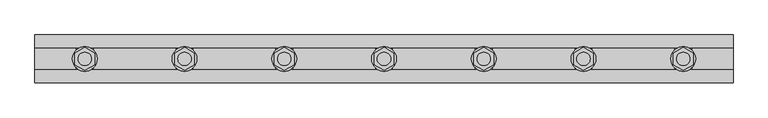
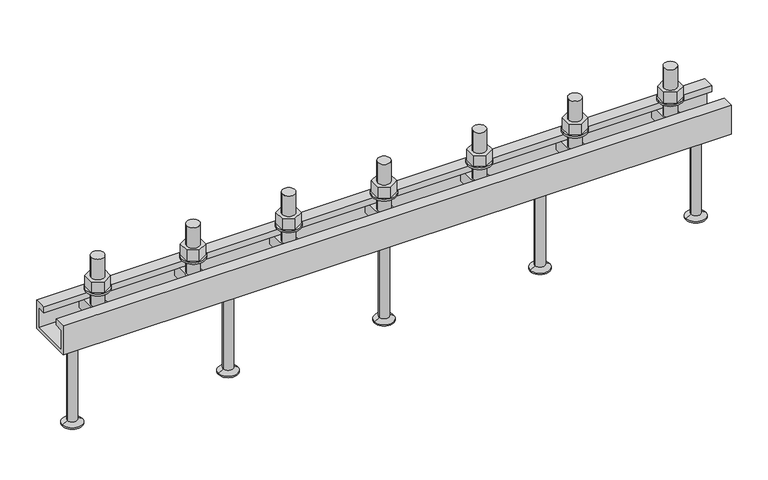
"""IFC4 building model written with IfcOpenShell, lengths in millimetres: fastener geometry, JTA-W JORDAHL® AnchorChannels : JTA-W L=1050 mm."""

from ifc_helpers import new_model, si_unit, point, frame, frame_2d, origin, place, context, project, spatial, polyline, circle_curve, trimmed, segment, composite_curve, outline, extrude, source, transform, mapped, element, save
from ifc_brep_helpers import plane_surface, cylinder_surface, revolved_surface, advanced_brep


def fastener_f3c19d08(model_context):
    return source(origin(), model_context, "Body", "SolidModel", [
        extrude(outline(polyline([(825.0, 17.3205081), (840.0, 8.660254), (840.0, -8.660254), (825.0, -17.3205081), (810.0, -8.660254), (810.0, 8.660254), (825.0, 17.3205081)]), holes=[composite_curve([segment(trimmed(circle_curve(frame_2d((825.0, 0.0)), 10.0), [point((815.0, 0.0))], [point((835.0, 0.0))], True, "CARTESIAN"), True, "CONTINUOUS"), segment(trimmed(circle_curve(frame_2d((825.0, 0.0)), 10.0), [point((835.0, 0.0))], [point((815.0, 0.0))], True, "CARTESIAN"), True, "CONTINUOUS")], self_intersect=False)]), frame((0.0, 0.0, 18.0), z_axis=(0.0, 0.0, 1.0), x_axis=(1.0, 0.0, 0.0)), (0.0, 0.0, 1.0), 18.0),
        extrude(outline(composite_curve([segment(trimmed(circle_curve(frame_2d((825.0, 0.0)), 18.5), [point((806.5, 0.0))], [point((843.5, 0.0))], False, "CARTESIAN"), True, "CONTINUOUS"), segment(trimmed(circle_curve(frame_2d((825.0, 0.0)), 18.5), [point((843.5, 0.0))], [point((806.5, 0.0))], False, "CARTESIAN"), True, "CONTINUOUS")], self_intersect=False), holes=[composite_curve([segment(trimmed(circle_curve(frame_2d((825.0, 0.0)), 10.5), [point((814.5, 0.0))], [point((835.5, 0.0))], True, "CARTESIAN"), True, "CONTINUOUS"), segment(trimmed(circle_curve(frame_2d((825.0, 0.0)), 10.5), [point((835.5, 0.0))], [point((814.5, 0.0))], True, "CARTESIAN"), True, "CONTINUOUS")], self_intersect=False)]), frame((0.0, 0.0, 15.0), z_axis=(0.0, 0.0, 1.0), x_axis=(1.0, 0.0, 0.0)), (0.0, 0.0, 1.0), 3.0),
        extrude(outline(polyline([(675.0, 17.3205081), (690.0, 8.660254), (690.0, -8.660254), (675.0, -17.3205081), (660.0, -8.660254), (660.0, 8.660254), (675.0, 17.3205081)]), holes=[composite_curve([segment(trimmed(circle_curve(frame_2d((675.0, 0.0)), 10.0), [point((665.0, 0.0))], [point((685.0, 0.0))], True, "CARTESIAN"), True, "CONTINUOUS"), segment(trimmed(circle_curve(frame_2d((675.0, 0.0)), 10.0), [point((685.0, 0.0))], [point((665.0, 0.0))], True, "CARTESIAN"), True, "CONTINUOUS")], self_intersect=False)]), frame((0.0, 0.0, 18.0), z_axis=(0.0, 0.0, 1.0), x_axis=(1.0, 0.0, 0.0)), (0.0, 0.0, 1.0), 18.0),
        extrude(outline(composite_curve([segment(trimmed(circle_curve(frame_2d((675.0, 0.0)), 18.5), [point((656.5, 0.0))], [point((693.5, 0.0))], False, "CARTESIAN"), True, "CONTINUOUS"), segment(trimmed(circle_curve(frame_2d((675.0, 0.0)), 18.5), [point((693.5, 0.0))], [point((656.5, 0.0))], False, "CARTESIAN"), True, "CONTINUOUS")], self_intersect=False), holes=[composite_curve([segment(trimmed(circle_curve(frame_2d((675.0, 0.0)), 10.5), [point((664.5, 0.0))], [point((685.5, 0.0))], True, "CARTESIAN"), True, "CONTINUOUS"), segment(trimmed(circle_curve(frame_2d((675.0, 0.0)), 10.5), [point((685.5, 0.0))], [point((664.5, 0.0))], True, "CARTESIAN"), True, "CONTINUOUS")], self_intersect=False)]), frame((0.0, 0.0, 15.0), z_axis=(0.0, 0.0, 1.0), x_axis=(1.0, 0.0, 0.0)), (0.0, 0.0, 1.0), 3.0),
        extrude(outline(polyline([(525.0, 17.3205081), (540.0, 8.660254), (540.0, -8.660254), (525.0, -17.3205081), (510.0, -8.660254), (510.0, 8.660254), (525.0, 17.3205081)]), holes=[composite_curve([segment(trimmed(circle_curve(frame_2d((525.0, 0.0)), 10.0), [point((515.0, 0.0))], [point((535.0, 0.0))], True, "CARTESIAN"), True, "CONTINUOUS"), segment(trimmed(circle_curve(frame_2d((525.0, 0.0)), 10.0), [point((535.0, 0.0))], [point((515.0, 0.0))], True, "CARTESIAN"), True, "CONTINUOUS")], self_intersect=False)]), frame((0.0, 0.0, 18.0), z_axis=(0.0, 0.0, 1.0), x_axis=(1.0, 0.0, 0.0)), (0.0, 0.0, 1.0), 18.0),
        extrude(outline(composite_curve([segment(trimmed(circle_curve(frame_2d((525.0, 0.0)), 18.5), [point((506.5, 0.0))], [point((543.5, 0.0))], False, "CARTESIAN"), True, "CONTINUOUS"), segment(trimmed(circle_curve(frame_2d((525.0, 0.0)), 18.5), [point((543.5, 0.0))], [point((506.5, 0.0))], False, "CARTESIAN"), True, "CONTINUOUS")], self_intersect=False), holes=[composite_curve([segment(trimmed(circle_curve(frame_2d((525.0, 0.0)), 10.5), [point((514.5, 0.0))], [point((535.5, 0.0))], True, "CARTESIAN"), True, "CONTINUOUS"), segment(trimmed(circle_curve(frame_2d((525.0, 0.0)), 10.5), [point((535.5, 0.0))], [point((514.5, 0.0))], True, "CARTESIAN"), True, "CONTINUOUS")], self_intersect=False)]), frame((0.0, 0.0, 15.0), z_axis=(0.0, 0.0, 1.0), x_axis=(1.0, 0.0, 0.0)), (0.0, 0.0, 1.0), 3.0),
        extrude(outline(polyline([(375.0, 17.3205081), (390.0, 8.660254), (390.0, -8.660254), (375.0, -17.3205081), (360.0, -8.660254), (360.0, 8.660254), (375.0, 17.3205081)]), holes=[composite_curve([segment(trimmed(circle_curve(frame_2d((375.0, 0.0)), 10.0), [point((365.0, 0.0))], [point((385.0, 0.0))], True, "CARTESIAN"), True, "CONTINUOUS"), segment(trimmed(circle_curve(frame_2d((375.0, 0.0)), 10.0), [point((385.0, 0.0))], [point((365.0, 0.0))], True, "CARTESIAN"), True, "CONTINUOUS")], self_intersect=False)]), frame((0.0, 0.0, 18.0), z_axis=(0.0, 0.0, 1.0), x_axis=(1.0, 0.0, 0.0)), (0.0, 0.0, 1.0), 18.0),
        extrude(outline(composite_curve([segment(trimmed(circle_curve(frame_2d((375.0, 0.0)), 18.5), [point((356.5, 0.0))], [point((393.5, 0.0))], False, "CARTESIAN"), True, "CONTINUOUS"), segment(trimmed(circle_curve(frame_2d((375.0, 0.0)), 18.5), [point((393.5, 0.0))], [point((356.5, 0.0))], False, "CARTESIAN"), True, "CONTINUOUS")], self_intersect=False), holes=[composite_curve([segment(trimmed(circle_curve(frame_2d((375.0, 0.0)), 10.5), [point((364.5, 0.0))], [point((385.5, 0.0))], True, "CARTESIAN"), True, "CONTINUOUS"), segment(trimmed(circle_curve(frame_2d((375.0, 0.0)), 10.5), [point((385.5, 0.0))], [point((364.5, 0.0))], True, "CARTESIAN"), True, "CONTINUOUS")], self_intersect=False)]), frame((0.0, 0.0, 15.0), z_axis=(0.0, 0.0, 1.0), x_axis=(1.0, 0.0, 0.0)), (0.0, 0.0, 1.0), 3.0),
        extrude(outline(polyline([(225.0, 17.3205081), (240.0, 8.660254), (240.0, -8.660254), (225.0, -17.3205081), (210.0, -8.660254), (210.0, 8.660254), (225.0, 17.3205081)]), holes=[composite_curve([segment(trimmed(circle_curve(frame_2d((225.0, 0.0)), 10.0), [point((215.0, 0.0))], [point((235.0, 0.0))], True, "CARTESIAN"), True, "CONTINUOUS"), segment(trimmed(circle_curve(frame_2d((225.0, 0.0)), 10.0), [point((235.0, 0.0))], [point((215.0, 0.0))], True, "CARTESIAN"), True, "CONTINUOUS")], self_intersect=False)]), frame((0.0, 0.0, 18.0), z_axis=(0.0, 0.0, 1.0), x_axis=(1.0, 0.0, 0.0)), (0.0, 0.0, 1.0), 18.0),
        extrude(outline(composite_curve([segment(trimmed(circle_curve(frame_2d((225.0, 0.0)), 18.5), [point((206.5, 0.0))], [point((243.5, 0.0))], False, "CARTESIAN"), True, "CONTINUOUS"), segment(trimmed(circle_curve(frame_2d((225.0, 0.0)), 18.5), [point((243.5, 0.0))], [point((206.5, 0.0))], False, "CARTESIAN"), True, "CONTINUOUS")], self_intersect=False), holes=[composite_curve([segment(trimmed(circle_curve(frame_2d((225.0, 0.0)), 10.5), [point((214.5, 0.0))], [point((235.5, 0.0))], True, "CARTESIAN"), True, "CONTINUOUS"), segment(trimmed(circle_curve(frame_2d((225.0, 0.0)), 10.5), [point((235.5, 0.0))], [point((214.5, 0.0))], True, "CARTESIAN"), True, "CONTINUOUS")], self_intersect=False)]), frame((0.0, 0.0, 15.0), z_axis=(0.0, 0.0, 1.0), x_axis=(1.0, 0.0, 0.0)), (0.0, 0.0, 1.0), 3.0),
        advanced_brep(
        [(837.5, 29.0, -10.0), (837.5, -29.0, -10.0), (837.5, -29.0, -30.0), (837.5, 29.0, -30.0), (812.5, 29.0, -10.0), (812.5, 29.0, -30.0), (812.5, -29.0, -30.0), (812.5, -29.0, -10.0), (835.0, 0.0, -10.0), (815.0, 0.0, -10.0), (815.0, 0.0, 70.0), (835.0, 0.0, 70.0)],
        [
            (0, 1),
            (1, 2),
            (2, 3),
            (3, 0),
            (4, 5),
            (5, 6),
            (6, 7),
            (7, 4),
            (0, 4),
            (7, 1),
            (8, 9, circle_curve(frame((825.0, 0.0, -10.0), z_axis=(0.0, 0.0, -1.0), x_axis=(1.0, 0.0, 0.0)), 10.0)),
            (9, 8, circle_curve(frame((825.0, 0.0, -10.0), z_axis=(0.0, 0.0, -1.0), x_axis=(1.0, 0.0, 0.0)), 10.0)),
            (6, 2),
            (5, 3),
            (10, 11, circle_curve(frame((825.0, 0.0, 70.0), z_axis=(0.0, 0.0, 1.0), x_axis=(1.0, 0.0, 0.0)), 10.0)),
            (11, 10, circle_curve(frame((825.0, 0.0, 70.0), z_axis=(0.0, 0.0, 1.0), x_axis=(1.0, 0.0, 0.0)), 10.0)),
            (10, 9),
            (8, 11),
        ],
        [
            plane_surface(frame((837.5, -29.0, -10.0), z_axis=(1.0, 0.0, 0.0), x_axis=(0.0, -1.0, 0.0))),
            plane_surface(frame((812.5, -29.0, -10.0), z_axis=(-1.0, 0.0, 0.0), x_axis=(0.0, 1.0, 0.0))),
            plane_surface(frame((837.5, 29.0, -10.0), z_axis=(0.0, 0.0, 1.0), x_axis=(-1.0, 0.0, 0.0))),
            plane_surface(frame((837.5, -29.0, -10.0), z_axis=(0.0, -1.0, 0.0), x_axis=(-1.0, 0.0, 0.0))),
            plane_surface(frame((837.5, -29.0, -30.0), z_axis=(0.0, 0.0, -1.0), x_axis=(-1.0, 0.0, 0.0))),
            plane_surface(frame((837.5, 29.0, -30.0), z_axis=(0.0, 1.0, 0.0), x_axis=(-1.0, 0.0, 0.0))),
            plane_surface(frame((835.0, 0.0, 70.0), z_axis=(0.0, 0.0, 1.0), x_axis=(0.0, 1.0, 0.0))),
            cylinder_surface(frame((825.0, 0.0, -10.0), z_axis=(0.0, 0.0, 1.0), x_axis=(1.0, 0.0, 0.0)), 10.0),
        ],
        [
            (0, [[1, 2, 3, 4]]),
            (1, [[5, 6, 7, 8]]),
            (2, [[-1, 9, -8, 10], [11, 12]]),
            (3, [[-2, -10, -7, 13]]),
            (4, [[-3, -13, -6, 14]]),
            (5, [[-4, -14, -5, -9]]),
            (6, [[15, 16]]),
            (7, [[-15, 17, -11, 18]]),
            (7, [[-16, -18, -12, -17]]),
        ],
    ),
        advanced_brep(
        [(687.5, 29.0, -10.0), (687.5, -29.0, -10.0), (687.5, -29.0, -30.0), (687.5, 29.0, -30.0), (662.5, 29.0, -10.0), (662.5, 29.0, -30.0), (662.5, -29.0, -30.0), (662.5, -29.0, -10.0), (685.0, 0.0, -10.0), (665.0, 0.0, -10.0), (665.0, 0.0, 70.0), (685.0, 0.0, 70.0)],
        [
            (0, 1),
            (1, 2),
            (2, 3),
            (3, 0),
            (4, 5),
            (5, 6),
            (6, 7),
            (7, 4),
            (0, 4),
            (7, 1),
            (8, 9, circle_curve(frame((675.0, 0.0, -10.0), z_axis=(0.0, 0.0, -1.0), x_axis=(1.0, 0.0, 0.0)), 10.0)),
            (9, 8, circle_curve(frame((675.0, 0.0, -10.0), z_axis=(0.0, 0.0, -1.0), x_axis=(1.0, 0.0, 0.0)), 10.0)),
            (6, 2),
            (5, 3),
            (10, 11, circle_curve(frame((675.0, 0.0, 70.0), z_axis=(0.0, 0.0, 1.0), x_axis=(1.0, 0.0, 0.0)), 10.0)),
            (11, 10, circle_curve(frame((675.0, 0.0, 70.0), z_axis=(0.0, 0.0, 1.0), x_axis=(1.0, 0.0, 0.0)), 10.0)),
            (10, 9),
            (8, 11),
        ],
        [
            plane_surface(frame((687.5, -29.0, -10.0), z_axis=(1.0, 0.0, 0.0), x_axis=(0.0, -1.0, 0.0))),
            plane_surface(frame((662.5, -29.0, -10.0), z_axis=(-1.0, 0.0, 0.0), x_axis=(0.0, 1.0, 0.0))),
            plane_surface(frame((687.5, 29.0, -10.0), z_axis=(0.0, 0.0, 1.0), x_axis=(-1.0, 0.0, 0.0))),
            plane_surface(frame((687.5, -29.0, -10.0), z_axis=(0.0, -1.0, 0.0), x_axis=(-1.0, 0.0, 0.0))),
            plane_surface(frame((687.5, -29.0, -30.0), z_axis=(0.0, 0.0, -1.0), x_axis=(-1.0, 0.0, 0.0))),
            plane_surface(frame((687.5, 29.0, -30.0), z_axis=(0.0, 1.0, 0.0), x_axis=(-1.0, 0.0, 0.0))),
            plane_surface(frame((685.0, 0.0, 70.0), z_axis=(0.0, 0.0, 1.0), x_axis=(0.0, 1.0, 0.0))),
            cylinder_surface(frame((675.0, 0.0, -10.0), z_axis=(0.0, 0.0, 1.0), x_axis=(1.0, 0.0, 0.0)), 10.0),
        ],
        [
            (0, [[1, 2, 3, 4]]),
            (1, [[5, 6, 7, 8]]),
            (2, [[-1, 9, -8, 10], [11, 12]]),
            (3, [[-2, -10, -7, 13]]),
            (4, [[-3, -13, -6, 14]]),
            (5, [[-4, -14, -5, -9]]),
            (6, [[15, 16]]),
            (7, [[-15, 17, -11, 18]]),
            (7, [[-16, -18, -12, -17]]),
        ],
    ),
        advanced_brep(
        [(537.5, 29.0, -10.0), (537.5, -29.0, -10.0), (537.5, -29.0, -30.0), (537.5, 29.0, -30.0), (512.5, 29.0, -10.0), (512.5, 29.0, -30.0), (512.5, -29.0, -30.0), (512.5, -29.0, -10.0), (535.0, 0.0, -10.0), (515.0, 0.0, -10.0), (515.0, 0.0, 70.0), (535.0, 0.0, 70.0)],
        [
            (0, 1),
            (1, 2),
            (2, 3),
            (3, 0),
            (4, 5),
            (5, 6),
            (6, 7),
            (7, 4),
            (0, 4),
            (7, 1),
            (8, 9, circle_curve(frame((525.0, 0.0, -10.0), z_axis=(0.0, 0.0, -1.0), x_axis=(1.0, 0.0, 0.0)), 10.0)),
            (9, 8, circle_curve(frame((525.0, 0.0, -10.0), z_axis=(0.0, 0.0, -1.0), x_axis=(1.0, 0.0, 0.0)), 10.0)),
            (6, 2),
            (5, 3),
            (10, 11, circle_curve(frame((525.0, 0.0, 70.0), z_axis=(0.0, 0.0, 1.0), x_axis=(1.0, 0.0, 0.0)), 10.0)),
            (11, 10, circle_curve(frame((525.0, 0.0, 70.0), z_axis=(0.0, 0.0, 1.0), x_axis=(1.0, 0.0, 0.0)), 10.0)),
            (10, 9),
            (8, 11),
        ],
        [
            plane_surface(frame((537.5, -29.0, -10.0), z_axis=(1.0, 0.0, 0.0), x_axis=(0.0, -1.0, 0.0))),
            plane_surface(frame((512.5, -29.0, -10.0), z_axis=(-1.0, 0.0, 0.0), x_axis=(0.0, 1.0, 0.0))),
            plane_surface(frame((537.5, 29.0, -10.0), z_axis=(0.0, 0.0, 1.0), x_axis=(-1.0, 0.0, 0.0))),
            plane_surface(frame((537.5, -29.0, -10.0), z_axis=(0.0, -1.0, 0.0), x_axis=(-1.0, 0.0, 0.0))),
            plane_surface(frame((537.5, -29.0, -30.0), z_axis=(0.0, 0.0, -1.0), x_axis=(-1.0, 0.0, 0.0))),
            plane_surface(frame((537.5, 29.0, -30.0), z_axis=(0.0, 1.0, 0.0), x_axis=(-1.0, 0.0, 0.0))),
            plane_surface(frame((535.0, 0.0, 70.0), z_axis=(0.0, 0.0, 1.0), x_axis=(0.0, 1.0, 0.0))),
            cylinder_surface(frame((525.0, 0.0, -10.0), z_axis=(0.0, 0.0, 1.0), x_axis=(1.0, 0.0, 0.0)), 10.0),
        ],
        [
            (0, [[1, 2, 3, 4]]),
            (1, [[5, 6, 7, 8]]),
            (2, [[-1, 9, -8, 10], [11, 12]]),
            (3, [[-2, -10, -7, 13]]),
            (4, [[-3, -13, -6, 14]]),
            (5, [[-4, -14, -5, -9]]),
            (6, [[15, 16]]),
            (7, [[-15, 17, -11, 18]]),
            (7, [[-16, -18, -12, -17]]),
        ],
    ),
        advanced_brep(
        [(387.5, 29.0, -10.0), (387.5, -29.0, -10.0), (387.5, -29.0, -30.0), (387.5, 29.0, -30.0), (362.5, 29.0, -10.0), (362.5, 29.0, -30.0), (362.5, -29.0, -30.0), (362.5, -29.0, -10.0), (385.0, 0.0, -10.0), (365.0, 0.0, -10.0), (365.0, 0.0, 70.0), (385.0, 0.0, 70.0)],
        [
            (0, 1),
            (1, 2),
            (2, 3),
            (3, 0),
            (4, 5),
            (5, 6),
            (6, 7),
            (7, 4),
            (0, 4),
            (7, 1),
            (8, 9, circle_curve(frame((375.0, 0.0, -10.0), z_axis=(0.0, 0.0, -1.0), x_axis=(1.0, 0.0, 0.0)), 10.0)),
            (9, 8, circle_curve(frame((375.0, 0.0, -10.0), z_axis=(0.0, 0.0, -1.0), x_axis=(1.0, 0.0, 0.0)), 10.0)),
            (6, 2),
            (5, 3),
            (10, 11, circle_curve(frame((375.0, 0.0, 70.0), z_axis=(0.0, 0.0, 1.0), x_axis=(1.0, 0.0, 0.0)), 10.0)),
            (11, 10, circle_curve(frame((375.0, 0.0, 70.0), z_axis=(0.0, 0.0, 1.0), x_axis=(1.0, 0.0, 0.0)), 10.0)),
            (10, 9),
            (8, 11),
        ],
        [
            plane_surface(frame((387.5, -29.0, -10.0), z_axis=(1.0, 0.0, 0.0), x_axis=(0.0, -1.0, 0.0))),
            plane_surface(frame((362.5, -29.0, -10.0), z_axis=(-1.0, 0.0, 0.0), x_axis=(0.0, 1.0, 0.0))),
            plane_surface(frame((387.5, 29.0, -10.0), z_axis=(0.0, 0.0, 1.0), x_axis=(-1.0, 0.0, 0.0))),
            plane_surface(frame((387.5, -29.0, -10.0), z_axis=(0.0, -1.0, 0.0), x_axis=(-1.0, 0.0, 0.0))),
            plane_surface(frame((387.5, -29.0, -30.0), z_axis=(0.0, 0.0, -1.0), x_axis=(-1.0, 0.0, 0.0))),
            plane_surface(frame((387.5, 29.0, -30.0), z_axis=(0.0, 1.0, 0.0), x_axis=(-1.0, 0.0, 0.0))),
            plane_surface(frame((385.0, 0.0, 70.0), z_axis=(0.0, 0.0, 1.0), x_axis=(0.0, 1.0, 0.0))),
            cylinder_surface(frame((375.0, 0.0, -10.0), z_axis=(0.0, 0.0, 1.0), x_axis=(1.0, 0.0, 0.0)), 10.0),
        ],
        [
            (0, [[1, 2, 3, 4]]),
            (1, [[5, 6, 7, 8]]),
            (2, [[-1, 9, -8, 10], [11, 12]]),
            (3, [[-2, -10, -7, 13]]),
            (4, [[-3, -13, -6, 14]]),
            (5, [[-4, -14, -5, -9]]),
            (6, [[15, 16]]),
            (7, [[-15, 17, -11, 18]]),
            (7, [[-16, -18, -12, -17]]),
        ],
    ),
        advanced_brep(
        [(237.5, 29.0, -10.0), (237.5, -29.0, -10.0), (237.5, -29.0, -30.0), (237.5, 29.0, -30.0), (212.5, 29.0, -10.0), (212.5, 29.0, -30.0), (212.5, -29.0, -30.0), (212.5, -29.0, -10.0), (235.0, 0.0, -10.0), (215.0, 0.0, -10.0), (215.0, 0.0, 70.0), (235.0, 0.0, 70.0)],
        [
            (0, 1),
            (1, 2),
            (2, 3),
            (3, 0),
            (4, 5),
            (5, 6),
            (6, 7),
            (7, 4),
            (0, 4),
            (7, 1),
            (8, 9, circle_curve(frame((225.0, 0.0, -10.0), z_axis=(0.0, 0.0, -1.0), x_axis=(1.0, 0.0, 0.0)), 10.0)),
            (9, 8, circle_curve(frame((225.0, 0.0, -10.0), z_axis=(0.0, 0.0, -1.0), x_axis=(1.0, 0.0, 0.0)), 10.0)),
            (6, 2),
            (5, 3),
            (10, 11, circle_curve(frame((225.0, 0.0, 70.0), z_axis=(0.0, 0.0, 1.0), x_axis=(1.0, 0.0, 0.0)), 10.0)),
            (11, 10, circle_curve(frame((225.0, 0.0, 70.0), z_axis=(0.0, 0.0, 1.0), x_axis=(1.0, 0.0, 0.0)), 10.0)),
            (10, 9),
            (8, 11),
        ],
        [
            plane_surface(frame((237.5, -29.0, -10.0), z_axis=(1.0, 0.0, 0.0), x_axis=(0.0, -1.0, 0.0))),
            plane_surface(frame((212.5, -29.0, -10.0), z_axis=(-1.0, 0.0, 0.0), x_axis=(0.0, 1.0, 0.0))),
            plane_surface(frame((237.5, 29.0, -10.0), z_axis=(0.0, 0.0, 1.0), x_axis=(-1.0, 0.0, 0.0))),
            plane_surface(frame((237.5, -29.0, -10.0), z_axis=(0.0, -1.0, 0.0), x_axis=(-1.0, 0.0, 0.0))),
            plane_surface(frame((237.5, -29.0, -30.0), z_axis=(0.0, 0.0, -1.0), x_axis=(-1.0, 0.0, 0.0))),
            plane_surface(frame((237.5, 29.0, -30.0), z_axis=(0.0, 1.0, 0.0), x_axis=(-1.0, 0.0, 0.0))),
            plane_surface(frame((235.0, 0.0, 70.0), z_axis=(0.0, 0.0, 1.0), x_axis=(0.0, 1.0, 0.0))),
            cylinder_surface(frame((225.0, 0.0, -10.0), z_axis=(0.0, 0.0, 1.0), x_axis=(1.0, 0.0, 0.0)), 10.0),
        ],
        [
            (0, [[1, 2, 3, 4]]),
            (1, [[5, 6, 7, 8]]),
            (2, [[-1, 9, -8, 10], [11, 12]]),
            (3, [[-2, -10, -7, 13]]),
            (4, [[-3, -13, -6, 14]]),
            (5, [[-4, -14, -5, -9]]),
            (6, [[15, 16]]),
            (7, [[-15, 17, -11, 18]]),
            (7, [[-16, -18, -12, -17]]),
        ],
    ),
        advanced_brep(
        [(770.0, 0.0, -48.0), (793.0, 0.0, -48.0), (747.0, 0.0, -48.0), (754.5, 0.0, -195.0), (785.5, 0.0, -195.0), (770.0, 0.0, -195.0), (754.5, 0.0, -193.0), (785.5, 0.0, -193.0), (762.2, 0.0, -188.5544029), (777.8, 0.0, -188.5544029), (762.2, 0.0, -52.0), (777.8, 0.0, -52.0)],
        [
            (0, 1),
            (1, 2, circle_curve(frame((770.0, 0.0, -48.0), z_axis=(0.0, 0.0, 1.0), x_axis=(1.0, 0.0, 0.0)), 23.0)),
            (2, 0),
            (2, 1, circle_curve(frame((770.0, 0.0, -48.0), z_axis=(0.0, 0.0, 1.0), x_axis=(1.0, 0.0, 0.0)), 23.0)),
            (3, 4, circle_curve(frame((770.0, 0.0, -195.0), z_axis=(0.0, 0.0, -1.0), x_axis=(1.0, 0.0, 0.0)), 15.5)),
            (4, 5),
            (5, 3),
            (4, 3, circle_curve(frame((770.0, 0.0, -195.0), z_axis=(0.0, 0.0, -1.0), x_axis=(1.0, 0.0, 0.0)), 15.5)),
            (6, 7, circle_curve(frame((770.0, 0.0, -193.0), z_axis=(0.0, 0.0, -1.0), x_axis=(1.0, 0.0, 0.0)), 15.5)),
            (7, 4),
            (3, 6),
            (7, 6, circle_curve(frame((770.0, 0.0, -193.0), z_axis=(0.0, 0.0, -1.0), x_axis=(1.0, 0.0, 0.0)), 15.5)),
            (8, 9, circle_curve(frame((770.0, 0.0, -188.5544029), z_axis=(0.0, 0.0, -1.0), x_axis=(1.0, 0.0, 0.0)), 7.8)),
            (9, 7),
            (6, 8),
            (9, 8, circle_curve(frame((770.0, 0.0, -188.5544029), z_axis=(0.0, 0.0, -1.0), x_axis=(1.0, 0.0, 0.0)), 7.8)),
            (10, 11, circle_curve(frame((770.0, 0.0, -52.0), z_axis=(0.0, 0.0, -1.0), x_axis=(1.0, 0.0, 0.0)), 7.8)),
            (11, 9),
            (8, 10),
            (11, 10, circle_curve(frame((770.0, 0.0, -52.0), z_axis=(0.0, 0.0, -1.0), x_axis=(1.0, 0.0, 0.0)), 7.8)),
            (1, 11),
            (10, 2),
        ],
        [
            plane_surface(frame((770.0, 0.0, -48.0), z_axis=(0.0, 0.0, 1.0), x_axis=(1.0, 0.0, 0.0))),
            plane_surface(frame((770.0, 0.0, -195.0), z_axis=(0.0, 0.0, -1.0), x_axis=(1.0, 0.0, 0.0))),
            cylinder_surface(frame((770.0, 0.0, 2361.3150031), z_axis=(0.0, 0.0, 1.0), x_axis=(1.0, 0.0, 0.0)), 15.5),
            revolved_surface(polyline([(785.5, 0.0, -193.0), (777.8, 0.0, -188.5544029)]), (770.0, 0.0, 2361.3150031), (0.0, 0.0, 1.0)),
            cylinder_surface(frame((770.0, 0.0, 2361.3150031), z_axis=(0.0, 0.0, 1.0), x_axis=(1.0, 0.0, 0.0)), 7.8),
            revolved_surface(polyline([(777.8, 0.0, -52.0), (793.0, 0.0, -48.0)]), (770.0, 0.0, 2361.3150031), (0.0, 0.0, 1.0)),
        ],
        [
            (0, [[1, 2, 3]]),
            (0, [[-3, 4, -1]]),
            (1, [[5, 6, 7]]),
            (1, [[8, -7, -6]]),
            (2, [[9, 10, -5, 11]]),
            (2, [[12, -11, -8, -10]]),
            (3, [[13, 14, -9, 15]]),
            (3, [[16, -15, -12, -14]]),
            (4, [[17, 18, -13, 19]]),
            (4, [[20, -19, -16, -18]]),
            (5, [[-2, 21, -17, 22]]),
            (5, [[-4, -22, -20, -21]]),
        ],
    ),
        advanced_brep(
        [(525.0, 0.0, -48.0), (548.0, 0.0, -48.0), (502.0, 0.0, -48.0), (509.5, 0.0, -195.0), (540.5, 0.0, -195.0), (525.0, 0.0, -195.0), (509.5, 0.0, -193.0), (540.5, 0.0, -193.0), (517.2, 0.0, -188.5544029), (532.8, 0.0, -188.5544029), (517.2, 0.0, -52.0), (532.8, 0.0, -52.0)],
        [
            (0, 1),
            (1, 2, circle_curve(frame((525.0, 0.0, -48.0), z_axis=(0.0, 0.0, 1.0), x_axis=(1.0, 0.0, 0.0)), 23.0)),
            (2, 0),
            (2, 1, circle_curve(frame((525.0, 0.0, -48.0), z_axis=(0.0, 0.0, 1.0), x_axis=(1.0, 0.0, 0.0)), 23.0)),
            (3, 4, circle_curve(frame((525.0, 0.0, -195.0), z_axis=(0.0, 0.0, -1.0), x_axis=(1.0, 0.0, 0.0)), 15.5)),
            (4, 5),
            (5, 3),
            (4, 3, circle_curve(frame((525.0, 0.0, -195.0), z_axis=(0.0, 0.0, -1.0), x_axis=(1.0, 0.0, 0.0)), 15.5)),
            (6, 7, circle_curve(frame((525.0, 0.0, -193.0), z_axis=(0.0, 0.0, -1.0), x_axis=(1.0, 0.0, 0.0)), 15.5)),
            (7, 4),
            (3, 6),
            (7, 6, circle_curve(frame((525.0, 0.0, -193.0), z_axis=(0.0, 0.0, -1.0), x_axis=(1.0, 0.0, 0.0)), 15.5)),
            (8, 9, circle_curve(frame((525.0, 0.0, -188.5544029), z_axis=(0.0, 0.0, -1.0), x_axis=(1.0, 0.0, 0.0)), 7.8)),
            (9, 7),
            (6, 8),
            (9, 8, circle_curve(frame((525.0, 0.0, -188.5544029), z_axis=(0.0, 0.0, -1.0), x_axis=(1.0, 0.0, 0.0)), 7.8)),
            (10, 11, circle_curve(frame((525.0, 0.0, -52.0), z_axis=(0.0, 0.0, -1.0), x_axis=(1.0, 0.0, 0.0)), 7.8)),
            (11, 9),
            (8, 10),
            (11, 10, circle_curve(frame((525.0, 0.0, -52.0), z_axis=(0.0, 0.0, -1.0), x_axis=(1.0, 0.0, 0.0)), 7.8)),
            (1, 11),
            (10, 2),
        ],
        [
            plane_surface(frame((525.0, 0.0, -48.0), z_axis=(0.0, 0.0, 1.0), x_axis=(1.0, 0.0, 0.0))),
            plane_surface(frame((525.0, 0.0, -195.0), z_axis=(0.0, 0.0, -1.0), x_axis=(1.0, 0.0, 0.0))),
            cylinder_surface(frame((525.0, 0.0, 2361.3150031), z_axis=(0.0, 0.0, 1.0), x_axis=(1.0, 0.0, 0.0)), 15.5),
            revolved_surface(polyline([(540.5, 0.0, -193.0), (532.8, 0.0, -188.5544029)]), (525.0, 0.0, 2361.3150031), (0.0, 0.0, 1.0)),
            cylinder_surface(frame((525.0, 0.0, 2361.3150031), z_axis=(0.0, 0.0, 1.0), x_axis=(1.0, 0.0, 0.0)), 7.8),
            revolved_surface(polyline([(532.8, 0.0, -52.0), (548.0, 0.0, -48.0)]), (525.0, 0.0, 2361.3150031), (0.0, 0.0, 1.0)),
        ],
        [
            (0, [[1, 2, 3]]),
            (0, [[-3, 4, -1]]),
            (1, [[5, 6, 7]]),
            (1, [[8, -7, -6]]),
            (2, [[9, 10, -5, 11]]),
            (2, [[12, -11, -8, -10]]),
            (3, [[13, 14, -9, 15]]),
            (3, [[16, -15, -12, -14]]),
            (4, [[17, 18, -13, 19]]),
            (4, [[20, -19, -16, -18]]),
            (5, [[-2, 21, -17, 22]]),
            (5, [[-4, -22, -20, -21]]),
        ],
    ),
        advanced_brep(
        [(280.0, 0.0, -48.0), (303.0, 0.0, -48.0), (257.0, 0.0, -48.0), (264.5, 0.0, -195.0), (295.5, 0.0, -195.0), (280.0, 0.0, -195.0), (264.5, 0.0, -193.0), (295.5, 0.0, -193.0), (272.2, 0.0, -188.5544029), (287.8, 0.0, -188.5544029), (272.2, 0.0, -52.0), (287.8, 0.0, -52.0)],
        [
            (0, 1),
            (1, 2, circle_curve(frame((280.0, 0.0, -48.0), z_axis=(0.0, 0.0, 1.0), x_axis=(1.0, 0.0, 0.0)), 23.0)),
            (2, 0),
            (2, 1, circle_curve(frame((280.0, 0.0, -48.0), z_axis=(0.0, 0.0, 1.0), x_axis=(1.0, 0.0, 0.0)), 23.0)),
            (3, 4, circle_curve(frame((280.0, 0.0, -195.0), z_axis=(0.0, 0.0, -1.0), x_axis=(1.0, 0.0, 0.0)), 15.5)),
            (4, 5),
            (5, 3),
            (4, 3, circle_curve(frame((280.0, 0.0, -195.0), z_axis=(0.0, 0.0, -1.0), x_axis=(1.0, 0.0, 0.0)), 15.5)),
            (6, 7, circle_curve(frame((280.0, 0.0, -193.0), z_axis=(0.0, 0.0, -1.0), x_axis=(1.0, 0.0, 0.0)), 15.5)),
            (7, 4),
            (3, 6),
            (7, 6, circle_curve(frame((280.0, 0.0, -193.0), z_axis=(0.0, 0.0, -1.0), x_axis=(1.0, 0.0, 0.0)), 15.5)),
            (8, 9, circle_curve(frame((280.0, 0.0, -188.5544029), z_axis=(0.0, 0.0, -1.0), x_axis=(1.0, 0.0, 0.0)), 7.8)),
            (9, 7),
            (6, 8),
            (9, 8, circle_curve(frame((280.0, 0.0, -188.5544029), z_axis=(0.0, 0.0, -1.0), x_axis=(1.0, 0.0, 0.0)), 7.8)),
            (10, 11, circle_curve(frame((280.0, 0.0, -52.0), z_axis=(0.0, 0.0, -1.0), x_axis=(1.0, 0.0, 0.0)), 7.8)),
            (11, 9),
            (8, 10),
            (11, 10, circle_curve(frame((280.0, 0.0, -52.0), z_axis=(0.0, 0.0, -1.0), x_axis=(1.0, 0.0, 0.0)), 7.8)),
            (1, 11),
            (10, 2),
        ],
        [
            plane_surface(frame((280.0, 0.0, -48.0), z_axis=(0.0, 0.0, 1.0), x_axis=(1.0, 0.0, 0.0))),
            plane_surface(frame((280.0, 0.0, -195.0), z_axis=(0.0, 0.0, -1.0), x_axis=(1.0, 0.0, 0.0))),
            cylinder_surface(frame((280.0, 0.0, 2361.3150031), z_axis=(0.0, 0.0, 1.0), x_axis=(1.0, 0.0, 0.0)), 15.5),
            revolved_surface(polyline([(295.5, 0.0, -193.0), (287.8, 0.0, -188.5544029)]), (280.0, 0.0, 2361.3150031), (0.0, 0.0, 1.0)),
            cylinder_surface(frame((280.0, 0.0, 2361.3150031), z_axis=(0.0, 0.0, 1.0), x_axis=(1.0, 0.0, 0.0)), 7.8),
            revolved_surface(polyline([(287.8, 0.0, -52.0), (303.0, 0.0, -48.0)]), (280.0, 0.0, 2361.3150031), (0.0, 0.0, 1.0)),
        ],
        [
            (0, [[1, 2, 3]]),
            (0, [[-3, 4, -1]]),
            (1, [[5, 6, 7]]),
            (1, [[8, -7, -6]]),
            (2, [[9, 10, -5, 11]]),
            (2, [[12, -11, -8, -10]]),
            (3, [[13, 14, -9, 15]]),
            (3, [[16, -15, -12, -14]]),
            (4, [[17, 18, -13, 19]]),
            (4, [[20, -19, -16, -18]]),
            (5, [[-2, 21, -17, 22]]),
            (5, [[-4, -22, -20, -21]]),
        ],
    ),
        extrude(outline(polyline([(975.0, 17.3205081), (990.0, 8.660254), (990.0, -8.660254), (975.0, -17.3205081), (960.0, -8.660254), (960.0, 8.660254), (975.0, 17.3205081)]), holes=[composite_curve([segment(trimmed(circle_curve(frame_2d((975.0, 0.0)), 10.0), [point((965.0, 0.0))], [point((985.0, 0.0))], True, "CARTESIAN"), True, "CONTINUOUS"), segment(trimmed(circle_curve(frame_2d((975.0, 0.0)), 10.0), [point((985.0, 0.0))], [point((965.0, 0.0))], True, "CARTESIAN"), True, "CONTINUOUS")], self_intersect=False)]), frame((0.0, 0.0, 18.0), z_axis=(0.0, 0.0, 1.0), x_axis=(1.0, 0.0, 0.0)), (0.0, 0.0, 1.0), 18.0),
        extrude(outline(composite_curve([segment(trimmed(circle_curve(frame_2d((975.0, 0.0)), 18.5), [point((956.5, 0.0))], [point((993.5, 0.0))], False, "CARTESIAN"), True, "CONTINUOUS"), segment(trimmed(circle_curve(frame_2d((975.0, 0.0)), 18.5), [point((993.5, 0.0))], [point((956.5, 0.0))], False, "CARTESIAN"), True, "CONTINUOUS")], self_intersect=False), holes=[composite_curve([segment(trimmed(circle_curve(frame_2d((975.0, 0.0)), 10.5), [point((964.5, 0.0))], [point((985.5, 0.0))], True, "CARTESIAN"), True, "CONTINUOUS"), segment(trimmed(circle_curve(frame_2d((975.0, 0.0)), 10.5), [point((985.5, 0.0))], [point((964.5, 0.0))], True, "CARTESIAN"), True, "CONTINUOUS")], self_intersect=False)]), frame((0.0, 0.0, 15.0), z_axis=(0.0, 0.0, 1.0), x_axis=(1.0, 0.0, 0.0)), (0.0, 0.0, 1.0), 3.0),
        extrude(outline(polyline([(75.0, 17.3205081), (90.0, 8.660254), (90.0, -8.660254), (75.0, -17.3205081), (60.0, -8.660254), (60.0, 8.660254), (75.0, 17.3205081)]), holes=[composite_curve([segment(trimmed(circle_curve(frame_2d((75.0, 0.0)), 10.0), [point((65.0, 0.0))], [point((85.0, 0.0))], True, "CARTESIAN"), True, "CONTINUOUS"), segment(trimmed(circle_curve(frame_2d((75.0, 0.0)), 10.0), [point((85.0, 0.0))], [point((65.0, 0.0))], True, "CARTESIAN"), True, "CONTINUOUS")], self_intersect=False)]), frame((0.0, 0.0, 18.0), z_axis=(0.0, 0.0, 1.0), x_axis=(1.0, 0.0, 0.0)), (0.0, 0.0, 1.0), 18.0),
        extrude(outline(composite_curve([segment(trimmed(circle_curve(frame_2d((75.0, 0.0)), 18.5), [point((56.5, 0.0))], [point((93.5, 0.0))], False, "CARTESIAN"), True, "CONTINUOUS"), segment(trimmed(circle_curve(frame_2d((75.0, 0.0)), 18.5), [point((93.5, 0.0))], [point((56.5, 0.0))], False, "CARTESIAN"), True, "CONTINUOUS")], self_intersect=False), holes=[composite_curve([segment(trimmed(circle_curve(frame_2d((75.0, 0.0)), 10.5), [point((64.5, 0.0))], [point((85.5, 0.0))], True, "CARTESIAN"), True, "CONTINUOUS"), segment(trimmed(circle_curve(frame_2d((75.0, 0.0)), 10.5), [point((85.5, 0.0))], [point((64.5, 0.0))], True, "CARTESIAN"), True, "CONTINUOUS")], self_intersect=False)]), frame((0.0, 0.0, 15.0), z_axis=(0.0, 0.0, 1.0), x_axis=(1.0, 0.0, 0.0)), (0.0, 0.0, 1.0), 3.0),
        advanced_brep(
        [(987.5, 29.0, -10.0), (987.5, -29.0, -10.0), (987.5, -29.0, -30.0), (987.5, 29.0, -30.0), (962.5, 29.0, -10.0), (962.5, 29.0, -30.0), (962.5, -29.0, -30.0), (962.5, -29.0, -10.0), (985.0, 0.0, -10.0), (965.0, 0.0, -10.0), (965.0, 0.0, 70.0), (985.0, 0.0, 70.0)],
        [
            (0, 1),
            (1, 2),
            (2, 3),
            (3, 0),
            (4, 5),
            (5, 6),
            (6, 7),
            (7, 4),
            (0, 4),
            (7, 1),
            (8, 9, circle_curve(frame((975.0, 0.0, -10.0), z_axis=(0.0, 0.0, -1.0), x_axis=(1.0, 0.0, 0.0)), 10.0)),
            (9, 8, circle_curve(frame((975.0, 0.0, -10.0), z_axis=(0.0, 0.0, -1.0), x_axis=(1.0, 0.0, 0.0)), 10.0)),
            (6, 2),
            (5, 3),
            (10, 11, circle_curve(frame((975.0, 0.0, 70.0), z_axis=(0.0, 0.0, 1.0), x_axis=(1.0, 0.0, 0.0)), 10.0)),
            (11, 10, circle_curve(frame((975.0, 0.0, 70.0), z_axis=(0.0, 0.0, 1.0), x_axis=(1.0, 0.0, 0.0)), 10.0)),
            (10, 9),
            (8, 11),
        ],
        [
            plane_surface(frame((987.5, -29.0, -10.0), z_axis=(1.0, 0.0, 0.0), x_axis=(0.0, -1.0, 0.0))),
            plane_surface(frame((962.5, -29.0, -10.0), z_axis=(-1.0, 0.0, 0.0), x_axis=(0.0, 1.0, 0.0))),
            plane_surface(frame((987.5, 29.0, -10.0), z_axis=(0.0, 0.0, 1.0), x_axis=(-1.0, 0.0, 0.0))),
            plane_surface(frame((987.5, -29.0, -10.0), z_axis=(0.0, -1.0, 0.0), x_axis=(-1.0, 0.0, 0.0))),
            plane_surface(frame((987.5, -29.0, -30.0), z_axis=(0.0, 0.0, -1.0), x_axis=(-1.0, 0.0, 0.0))),
            plane_surface(frame((987.5, 29.0, -30.0), z_axis=(0.0, 1.0, 0.0), x_axis=(-1.0, 0.0, 0.0))),
            plane_surface(frame((985.0, 0.0, 70.0), z_axis=(0.0, 0.0, 1.0), x_axis=(0.0, 1.0, 0.0))),
            cylinder_surface(frame((975.0, 0.0, -10.0), z_axis=(0.0, 0.0, 1.0), x_axis=(1.0, 0.0, 0.0)), 10.0),
        ],
        [
            (0, [[1, 2, 3, 4]]),
            (1, [[5, 6, 7, 8]]),
            (2, [[-1, 9, -8, 10], [11, 12]]),
            (3, [[-2, -10, -7, 13]]),
            (4, [[-3, -13, -6, 14]]),
            (5, [[-4, -14, -5, -9]]),
            (6, [[15, 16]]),
            (7, [[-15, 17, -11, 18]]),
            (7, [[-16, -18, -12, -17]]),
        ],
    ),
        advanced_brep(
        [(87.5, 29.0, -10.0), (87.5, -29.0, -10.0), (87.5, -29.0, -30.0), (87.5, 29.0, -30.0), (62.5, 29.0, -10.0), (62.5, 29.0, -30.0), (62.5, -29.0, -30.0), (62.5, -29.0, -10.0), (85.0, 0.0, -10.0), (65.0, 0.0, -10.0), (65.0, 0.0, 70.0), (85.0, 0.0, 70.0)],
        [
            (0, 1),
            (1, 2),
            (2, 3),
            (3, 0),
            (4, 5),
            (5, 6),
            (6, 7),
            (7, 4),
            (0, 4),
            (7, 1),
            (8, 9, circle_curve(frame((75.0, 0.0, -10.0), z_axis=(0.0, 0.0, -1.0), x_axis=(1.0, 0.0, 0.0)), 10.0)),
            (9, 8, circle_curve(frame((75.0, 0.0, -10.0), z_axis=(0.0, 0.0, -1.0), x_axis=(1.0, 0.0, 0.0)), 10.0)),
            (6, 2),
            (5, 3),
            (10, 11, circle_curve(frame((75.0, 0.0, 70.0), z_axis=(0.0, 0.0, 1.0), x_axis=(1.0, 0.0, 0.0)), 10.0)),
            (11, 10, circle_curve(frame((75.0, 0.0, 70.0), z_axis=(0.0, 0.0, 1.0), x_axis=(1.0, 0.0, 0.0)), 10.0)),
            (10, 9),
            (8, 11),
        ],
        [
            plane_surface(frame((87.5, -29.0, -10.0), z_axis=(1.0, 0.0, 0.0), x_axis=(0.0, -1.0, 0.0))),
            plane_surface(frame((62.5, -29.0, -10.0), z_axis=(-1.0, 0.0, 0.0), x_axis=(0.0, 1.0, 0.0))),
            plane_surface(frame((87.5, 29.0, -10.0), z_axis=(0.0, 0.0, 1.0), x_axis=(-1.0, 0.0, 0.0))),
            plane_surface(frame((87.5, -29.0, -10.0), z_axis=(0.0, -1.0, 0.0), x_axis=(-1.0, 0.0, 0.0))),
            plane_surface(frame((87.5, -29.0, -30.0), z_axis=(0.0, 0.0, -1.0), x_axis=(-1.0, 0.0, 0.0))),
            plane_surface(frame((87.5, 29.0, -30.0), z_axis=(0.0, 1.0, 0.0), x_axis=(-1.0, 0.0, 0.0))),
            plane_surface(frame((85.0, 0.0, 70.0), z_axis=(0.0, 0.0, 1.0), x_axis=(0.0, 1.0, 0.0))),
            cylinder_surface(frame((75.0, 0.0, -10.0), z_axis=(0.0, 0.0, 1.0), x_axis=(1.0, 0.0, 0.0)), 10.0),
        ],
        [
            (0, [[1, 2, 3, 4]]),
            (1, [[5, 6, 7, 8]]),
            (2, [[-1, 9, -8, 10], [11, 12]]),
            (3, [[-2, -10, -7, 13]]),
            (4, [[-3, -13, -6, 14]]),
            (5, [[-4, -14, -5, -9]]),
            (6, [[15, 16]]),
            (7, [[-15, 17, -11, 18]]),
            (7, [[-16, -18, -12, -17]]),
        ],
    ),
        advanced_brep(
        [(1015.0, 0.0, -48.0), (1038.0, 0.0, -48.0), (992.0, 0.0, -48.0), (999.5, 0.0, -195.0), (1030.5, 0.0, -195.0), (1015.0, 0.0, -195.0), (999.5, 0.0, -193.0), (1030.5, 0.0, -193.0), (1007.2, 0.0, -188.5544029), (1022.8, 0.0, -188.5544029), (1007.2, 0.0, -52.0), (1022.8, 0.0, -52.0)],
        [
            (0, 1),
            (1, 2, circle_curve(frame((1015.0, 0.0, -48.0), z_axis=(0.0, 0.0, 1.0), x_axis=(1.0, 0.0, 0.0)), 23.0)),
            (2, 0),
            (2, 1, circle_curve(frame((1015.0, 0.0, -48.0), z_axis=(0.0, 0.0, 1.0), x_axis=(1.0, 0.0, 0.0)), 23.0)),
            (3, 4, circle_curve(frame((1015.0, 0.0, -195.0), z_axis=(0.0, 0.0, -1.0), x_axis=(1.0, 0.0, 0.0)), 15.5)),
            (4, 5),
            (5, 3),
            (4, 3, circle_curve(frame((1015.0, 0.0, -195.0), z_axis=(0.0, 0.0, -1.0), x_axis=(1.0, 0.0, 0.0)), 15.5)),
            (6, 7, circle_curve(frame((1015.0, 0.0, -193.0), z_axis=(0.0, 0.0, -1.0), x_axis=(1.0, 0.0, 0.0)), 15.5)),
            (7, 4),
            (3, 6),
            (7, 6, circle_curve(frame((1015.0, 0.0, -193.0), z_axis=(0.0, 0.0, -1.0), x_axis=(1.0, 0.0, 0.0)), 15.5)),
            (8, 9, circle_curve(frame((1015.0, 0.0, -188.5544029), z_axis=(0.0, 0.0, -1.0), x_axis=(1.0, 0.0, 0.0)), 7.8)),
            (9, 7),
            (6, 8),
            (9, 8, circle_curve(frame((1015.0, 0.0, -188.5544029), z_axis=(0.0, 0.0, -1.0), x_axis=(1.0, 0.0, 0.0)), 7.8)),
            (10, 11, circle_curve(frame((1015.0, 0.0, -52.0), z_axis=(0.0, 0.0, -1.0), x_axis=(1.0, 0.0, 0.0)), 7.8)),
            (11, 9),
            (8, 10),
            (11, 10, circle_curve(frame((1015.0, 0.0, -52.0), z_axis=(0.0, 0.0, -1.0), x_axis=(1.0, 0.0, 0.0)), 7.8)),
            (1, 11),
            (10, 2),
        ],
        [
            plane_surface(frame((1015.0, 0.0, -48.0), z_axis=(0.0, 0.0, 1.0), x_axis=(1.0, 0.0, 0.0))),
            plane_surface(frame((1015.0, 0.0, -195.0), z_axis=(0.0, 0.0, -1.0), x_axis=(1.0, 0.0, 0.0))),
            cylinder_surface(frame((1015.0, 0.0, 2361.3150031), z_axis=(0.0, 0.0, 1.0), x_axis=(1.0, 0.0, 0.0)), 15.5),
            revolved_surface(polyline([(1030.5, 0.0, -193.0), (1022.8, 0.0, -188.5544029)]), (1015.0, 0.0, 2361.3150031), (0.0, 0.0, 1.0)),
            cylinder_surface(frame((1015.0, 0.0, 2361.3150031), z_axis=(0.0, 0.0, 1.0), x_axis=(1.0, 0.0, 0.0)), 7.8),
            revolved_surface(polyline([(1022.8, 0.0, -52.0), (1038.0, 0.0, -48.0)]), (1015.0, 0.0, 2361.3150031), (0.0, 0.0, 1.0)),
        ],
        [
            (0, [[1, 2, 3]]),
            (0, [[-3, 4, -1]]),
            (1, [[5, 6, 7]]),
            (1, [[8, -7, -6]]),
            (2, [[9, 10, -5, 11]]),
            (2, [[12, -11, -8, -10]]),
            (3, [[13, 14, -9, 15]]),
            (3, [[16, -15, -12, -14]]),
            (4, [[17, 18, -13, 19]]),
            (4, [[20, -19, -16, -18]]),
            (5, [[-2, 21, -17, 22]]),
            (5, [[-4, -22, -20, -21]]),
        ],
    ),
        advanced_brep(
        [(35.0, 0.0, -48.0), (58.0, 0.0, -48.0), (12.0, 0.0, -48.0), (19.5, 0.0, -195.0), (50.5, 0.0, -195.0), (35.0, 0.0, -195.0), (19.5, 0.0, -193.0), (50.5, 0.0, -193.0), (27.2, 0.0, -188.5544029), (42.8, 0.0, -188.5544029), (27.2, 0.0, -52.0), (42.8, 0.0, -52.0)],
        [
            (0, 1),
            (1, 2, circle_curve(frame((35.0, 0.0, -48.0), z_axis=(0.0, 0.0, 1.0), x_axis=(1.0, 0.0, 0.0)), 23.0)),
            (2, 0),
            (2, 1, circle_curve(frame((35.0, 0.0, -48.0), z_axis=(0.0, 0.0, 1.0), x_axis=(1.0, 0.0, 0.0)), 23.0)),
            (3, 4, circle_curve(frame((35.0, 0.0, -195.0), z_axis=(0.0, 0.0, -1.0), x_axis=(1.0, 0.0, 0.0)), 15.5)),
            (4, 5),
            (5, 3),
            (4, 3, circle_curve(frame((35.0, 0.0, -195.0), z_axis=(0.0, 0.0, -1.0), x_axis=(1.0, 0.0, 0.0)), 15.5)),
            (6, 7, circle_curve(frame((35.0, 0.0, -193.0), z_axis=(0.0, 0.0, -1.0), x_axis=(1.0, 0.0, 0.0)), 15.5)),
            (7, 4),
            (3, 6),
            (7, 6, circle_curve(frame((35.0, 0.0, -193.0), z_axis=(0.0, 0.0, -1.0), x_axis=(1.0, 0.0, 0.0)), 15.5)),
            (8, 9, circle_curve(frame((35.0, 0.0, -188.5544029), z_axis=(0.0, 0.0, -1.0), x_axis=(1.0, 0.0, 0.0)), 7.8)),
            (9, 7),
            (6, 8),
            (9, 8, circle_curve(frame((35.0, 0.0, -188.5544029), z_axis=(0.0, 0.0, -1.0), x_axis=(1.0, 0.0, 0.0)), 7.8)),
            (10, 11, circle_curve(frame((35.0, 0.0, -52.0), z_axis=(0.0, 0.0, -1.0), x_axis=(1.0, 0.0, 0.0)), 7.8)),
            (11, 9),
            (8, 10),
            (11, 10, circle_curve(frame((35.0, 0.0, -52.0), z_axis=(0.0, 0.0, -1.0), x_axis=(1.0, 0.0, 0.0)), 7.8)),
            (1, 11),
            (10, 2),
        ],
        [
            plane_surface(frame((35.0, 0.0, -48.0), z_axis=(0.0, 0.0, 1.0), x_axis=(1.0, 0.0, 0.0))),
            plane_surface(frame((35.0, 0.0, -195.0), z_axis=(0.0, 0.0, -1.0), x_axis=(1.0, 0.0, 0.0))),
            cylinder_surface(frame((35.0, 0.0, 2361.3150031), z_axis=(0.0, 0.0, 1.0), x_axis=(1.0, 0.0, 0.0)), 15.5),
            revolved_surface(polyline([(50.5, 0.0, -193.0), (42.8, 0.0, -188.5544029)]), (35.0, 0.0, 2361.3150031), (0.0, 0.0, 1.0)),
            cylinder_surface(frame((35.0, 0.0, 2361.3150031), z_axis=(0.0, 0.0, 1.0), x_axis=(1.0, 0.0, 0.0)), 7.8),
            revolved_surface(polyline([(42.8, 0.0, -52.0), (58.0, 0.0, -48.0)]), (35.0, 0.0, 2361.3150031), (0.0, 0.0, 1.0)),
        ],
        [
            (0, [[1, 2, 3]]),
            (0, [[-3, 4, -1]]),
            (1, [[5, 6, 7]]),
            (1, [[8, -7, -6]]),
            (2, [[9, 10, -5, 11]]),
            (2, [[12, -11, -8, -10]]),
            (3, [[13, 14, -9, 15]]),
            (3, [[16, -15, -12, -14]]),
            (4, [[17, 18, -13, 19]]),
            (4, [[20, -19, -16, -18]]),
            (5, [[-2, 21, -17, 22]]),
            (5, [[-4, -22, -20, -21]]),
        ],
    ),
        extrude(outline(polyline([(36.0, 0.0), (36.0, -48.0), (-36.0, -48.0), (-36.0, 0.0), (-16.5, 0.0), (-16.5, -10.0), (-31.0, -10.0), (-31.0, -43.0), (31.0, -43.0), (31.0, -10.0), (16.5, -10.0), (16.5, 0.0), (36.0, 0.0)])), frame((0.0, 0.0, 0.0), z_axis=(1.0, 0.0, 0.0), x_axis=(0.0, 1.0, 0.0)), (0.0, 0.0, 1.0), 1050.0),
    ])


if __name__ == "__main__":
    model = new_model("IFC4")
    model_context = context("Model", 3, world=origin())
    ifc_project = project(units=[si_unit("LENGTHUNIT", "METRE", prefix="MILLI")], contexts=[model_context])
    site = spatial("IfcSite", under=ifc_project)
    building = spatial("IfcBuilding", under=site)
    placement = place(None, origin())
    fastener_shape = fastener_f3c19d08(model_context)
    element("IfcFastener", 1, ObjectType="JTA-W JORDAHL® AnchorChannels : JTA-W L=1050 mm", at=placement, inside=building, context=model_context, shape_type="MappedRepresentation", body=[
        mapped(fastener_shape, transform((0.0, 0.0, 0.0), x_axis=(1.0, 0.0, 0.0), y_axis=(0.0, 1.0, 0.0), z_axis=(0.0, 0.0, 1.0))),
    ])
    save(model, "model.ifc")
